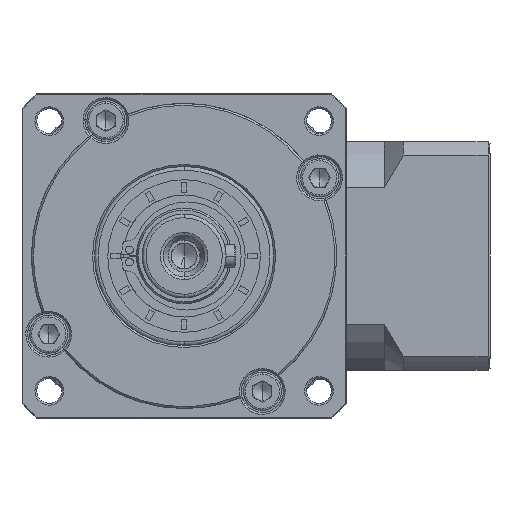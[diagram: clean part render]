
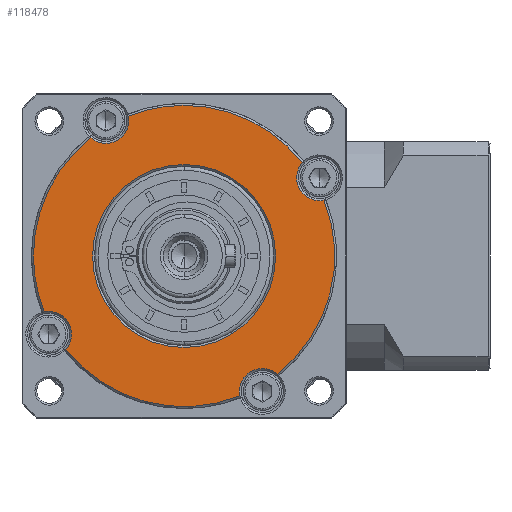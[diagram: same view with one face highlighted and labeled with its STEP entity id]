
A CAD part, left-side view. The second image highlights one B-rep face of the part: STEP entity #118478.
In plain terms, the highlighted planar face has unit normal (-1, 0, 0).
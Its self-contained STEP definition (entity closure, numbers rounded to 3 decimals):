
#2722 = CARTESIAN_POINT ( 'NONE',  ( -85.36, -20.174, -159.585 ) ) ;
#3901 = FACE_OUTER_BOUND ( 'NONE', #104387, .T. ) ;
#4414 = CARTESIAN_POINT ( 'NONE',  ( -85.36, -26.055, -158.397 ) ) ;
#5162 = AXIS2_PLACEMENT_3D ( 'NONE', #85774, #5679, #99232 ) ;
#5334 = ORIENTED_EDGE ( 'NONE', *, *, #7793, .T. ) ;
#5679 = DIRECTION ( 'NONE',  ( 1., 0., 0. ) ) ;
#7793 = EDGE_CURVE ( 'NONE', #133813, #51661, #109032, .T. ) ;
#9334 = ORIENTED_EDGE ( 'NONE', *, *, #18270, .T. ) ;
#12221 = CIRCLE ( 'NONE', #82323, 6. ) ;
#12641 = EDGE_CURVE ( 'NONE', #37581, #121633, #16694, .T. ) ;
#13080 = DIRECTION ( 'NONE',  ( 1., 0., 0. ) ) ;
#13602 = DIRECTION ( 'NONE',  ( 1., 0., 0. ) ) ;
#14195 = CIRCLE ( 'NONE', #149418, 6. ) ;
#14371 = CIRCLE ( 'NONE', #94584, 6. ) ;
#16036 = ORIENTED_EDGE ( 'NONE', *, *, #67349, .T. ) ;
#16694 = CIRCLE ( 'NONE', #166743, 39.5 ) ;
#17836 = DIRECTION ( 'NONE',  ( 0., 0., -1. ) ) ;
#18270 = EDGE_CURVE ( 'NONE', #57622, #36942, #127177, .T. ) ;
#18936 = AXIS2_PLACEMENT_3D ( 'NONE', #148014, #67984, #161398 ) ;
#19162 = AXIS2_PLACEMENT_3D ( 'NONE', #47540, #140963, #61007 ) ;
#22114 = AXIS2_PLACEMENT_3D ( 'NONE', #128308, #48320, #141744 ) ;
#23144 = EDGE_LOOP ( 'NONE', ( #43034, #9334 ) ) ;
#27774 = ORIENTED_EDGE ( 'NONE', *, *, #109267, .T. ) ;
#28696 = CARTESIAN_POINT ( 'NONE',  ( -85.36, -30.024, -153.897 ) ) ;
#31375 = DIRECTION ( 'NONE',  ( 1., 0., 0. ) ) ;
#32971 = DIRECTION ( 'NONE',  ( 1., 0., 0. ) ) ;
#35979 = EDGE_CURVE ( 'NONE', #133813, #107613, #111097, .T. ) ;
#36942 = VERTEX_POINT ( 'NONE', #59736 ) ;
#37581 = VERTEX_POINT ( 'NONE', #128333 ) ;
#39663 = ORIENTED_EDGE ( 'NONE', *, *, #42880, .T. ) ;
#42880 = EDGE_CURVE ( 'NONE', #51887, #121286, #12221, .T. ) ;
#43034 = ORIENTED_EDGE ( 'NONE', *, *, #150178, .T. ) ;
#47540 = CARTESIAN_POINT ( 'NONE',  ( -85.36, -41.062, -102.39 ) ) ;
#48320 = DIRECTION ( 'NONE',  ( -1., 0., 0. ) ) ;
#49960 = CARTESIAN_POINT ( 'NONE',  ( -85.36, -36.563, -98.42 ) ) ;
#50182 = CARTESIAN_POINT ( 'NONE',  ( -85.36, -41.062, -108.39 ) ) ;
#51409 = AXIS2_PLACEMENT_3D ( 'NONE', #70811, #164286, #84228 ) ;
#51661 = VERTEX_POINT ( 'NONE', #28696 ) ;
#51887 = VERTEX_POINT ( 'NONE', #50182 ) ;
#53014 = DIRECTION ( 'NONE',  ( 1., 0., 0. ) ) ;
#56367 = CARTESIAN_POINT ( 'NONE',  ( -85.36, 14.945, -93.383 ) ) ;
#57622 = VERTEX_POINT ( 'NONE', #125916 ) ;
#57892 = EDGE_CURVE ( 'NONE', #121633, #122008, #163800, .T. ) ;
#58089 = CARTESIAN_POINT ( 'NONE',  ( -85.36, 33.945, -122.89 ) ) ;
#59736 = CARTESIAN_POINT ( 'NONE',  ( -85.36, -29.555, -122.89 ) ) ;
#59908 = EDGE_CURVE ( 'NONE', #79731, #94522, #124884, .T. ) ;
#60091 = DIRECTION ( 'NONE',  ( 1., 0., 0. ) ) ;
#60703 = ORIENTED_EDGE ( 'NONE', *, *, #75195, .T. ) ;
#61007 = DIRECTION ( 'NONE',  ( 0., 0., -1. ) ) ;
#67349 = EDGE_CURVE ( 'NONE', #89008, #51887, #111625, .T. ) ;
#67366 = CARTESIAN_POINT ( 'NONE',  ( -85.36, -5.555, -122.89 ) ) ;
#67984 = DIRECTION ( 'NONE',  ( 1., 0., 0. ) ) ;
#69646 = ORIENTED_EDGE ( 'NONE', *, *, #35979, .F. ) ;
#70811 = CARTESIAN_POINT ( 'NONE',  ( -85.36, -5.555, -122.89 ) ) ;
#71907 = CARTESIAN_POINT ( 'NONE',  ( -85.36, 14.945, -87.383 ) ) ;
#74470 = ORIENTED_EDGE ( 'NONE', *, *, #59908, .F. ) ;
#75083 = FACE_BOUND ( 'NONE', #23144, .T. ) ;
#75195 = EDGE_CURVE ( 'NONE', #147220, #122008, #143999, .T. ) ;
#77274 = CIRCLE ( 'NONE', #171580, 39.5 ) ;
#79191 = DIRECTION ( 'NONE',  ( 1., 0., 0. ) ) ;
#79731 = VERTEX_POINT ( 'NONE', #90336 ) ;
#80812 = DIRECTION ( 'NONE',  ( 0., 0., 1. ) ) ;
#82304 = CARTESIAN_POINT ( 'NONE',  ( -85.36, -42.25, -108.271 ) ) ;
#82323 = AXIS2_PLACEMENT_3D ( 'NONE', #159190, #79191, #172622 ) ;
#84228 = DIRECTION ( 'NONE',  ( 0., 0., 1. ) ) ;
#85301 = DIRECTION ( 'NONE',  ( 0., 0., -1. ) ) ;
#85774 = CARTESIAN_POINT ( 'NONE',  ( -85.36, -5.555, -122.89 ) ) ;
#87871 = CARTESIAN_POINT ( 'NONE',  ( -85.36, 25.453, -147.359 ) ) ;
#88630 = AXIS2_PLACEMENT_3D ( 'NONE', #67366, #160790, #80812 ) ;
#88710 = AXIS2_PLACEMENT_3D ( 'NONE', #4414, #97961, #17836 ) ;
#89008 = VERTEX_POINT ( 'NONE', #82304 ) ;
#90336 = CARTESIAN_POINT ( 'NONE',  ( -85.36, 9.064, -86.194 ) ) ;
#93212 = CARTESIAN_POINT ( 'NONE',  ( -85.36, -5.555, -122.89 ) ) ;
#93721 = CARTESIAN_POINT ( 'NONE',  ( -85.36, -5.555, -122.89 ) ) ;
#94522 = VERTEX_POINT ( 'NONE', #131404 ) ;
#94584 = AXIS2_PLACEMENT_3D ( 'NONE', #113000, #32971, #126404 ) ;
#97961 = DIRECTION ( 'NONE',  ( 1., 0., 0. ) ) ;
#99232 = DIRECTION ( 'NONE',  ( 0., -1., 0. ) ) ;
#101341 = ORIENTED_EDGE ( 'NONE', *, *, #171326, .F. ) ;
#103622 = AXIS2_PLACEMENT_3D ( 'NONE', #93212, #13080, #106575 ) ;
#104387 = EDGE_LOOP ( 'NONE', ( #74470, #27774, #60703, #133355, #132283, #150739, #69646, #5334, #161749, #16036, #39663, #101341 ) ) ;
#106356 = CARTESIAN_POINT ( 'NONE',  ( -85.36, 18.915, -91.882 ) ) ;
#106575 = DIRECTION ( 'NONE',  ( 0., 1., 0. ) ) ;
#107100 = DIRECTION ( 'NONE',  ( 0., 0., 1. ) ) ;
#107613 = VERTEX_POINT ( 'NONE', #87871 ) ;
#109032 = CIRCLE ( 'NONE', #88710, 6. ) ;
#109267 = EDGE_CURVE ( 'NONE', #79731, #147220, #14195, .T. ) ;
#111097 = CIRCLE ( 'NONE', #115670, 39.5 ) ;
#111427 = CARTESIAN_POINT ( 'NONE',  ( -85.36, -5.555, -122.89 ) ) ;
#111625 = CIRCLE ( 'NONE', #19162, 6. ) ;
#113000 = CARTESIAN_POINT ( 'NONE',  ( -85.36, 29.952, -143.39 ) ) ;
#114303 = PLANE ( 'NONE',  #22114 ) ;
#115670 = AXIS2_PLACEMENT_3D ( 'NONE', #132989, #53014, #146472 ) ;
#118478 = ADVANCED_FACE ( 'NONE', ( #3901, #75083 ), #114303, .T. ) ;
#121286 = VERTEX_POINT ( 'NONE', #49960 ) ;
#121633 = VERTEX_POINT ( 'NONE', #58089 ) ;
#122008 = VERTEX_POINT ( 'NONE', #106356 ) ;
#124807 = DIRECTION ( 'NONE',  ( 0., 1., 0. ) ) ;
#124884 = CIRCLE ( 'NONE', #51409, 39.5 ) ;
#125916 = CARTESIAN_POINT ( 'NONE',  ( -85.36, 18.445, -122.89 ) ) ;
#126404 = DIRECTION ( 'NONE',  ( 0., 0., -1. ) ) ;
#127177 = CIRCLE ( 'NONE', #18936, 24. ) ;
#128308 = CARTESIAN_POINT ( 'NONE',  ( -85.36, -5.555, -122.89 ) ) ;
#128333 = CARTESIAN_POINT ( 'NONE',  ( -85.36, 31.14, -137.508 ) ) ;
#128782 = EDGE_CURVE ( 'NONE', #37581, #107613, #14371, .T. ) ;
#131404 = CARTESIAN_POINT ( 'NONE',  ( -85.36, -5.555, -83.39 ) ) ;
#132283 = ORIENTED_EDGE ( 'NONE', *, *, #12641, .F. ) ;
#132989 = CARTESIAN_POINT ( 'NONE',  ( -85.36, -5.555, -122.89 ) ) ;
#133355 = ORIENTED_EDGE ( 'NONE', *, *, #57892, .F. ) ;
#133813 = VERTEX_POINT ( 'NONE', #2722 ) ;
#140045 = CARTESIAN_POINT ( 'NONE',  ( -85.36, 14.945, -87.383 ) ) ;
#140963 = DIRECTION ( 'NONE',  ( 1., 0., 0. ) ) ;
#141744 = DIRECTION ( 'NONE',  ( 0., 0., -1. ) ) ;
#143999 = CIRCLE ( 'NONE', #167033, 6. ) ;
#146472 = DIRECTION ( 'NONE',  ( 0., 0., 1. ) ) ;
#147220 = VERTEX_POINT ( 'NONE', #56367 ) ;
#148014 = CARTESIAN_POINT ( 'NONE',  ( -85.36, -5.555, -122.89 ) ) ;
#149418 = AXIS2_PLACEMENT_3D ( 'NONE', #71907, #165361, #85301 ) ;
#149641 = CIRCLE ( 'NONE', #5162, 24. ) ;
#150178 = EDGE_CURVE ( 'NONE', #36942, #57622, #149641, .T. ) ;
#150739 = ORIENTED_EDGE ( 'NONE', *, *, #128782, .T. ) ;
#153571 = DIRECTION ( 'NONE',  ( 0., 0., -1. ) ) ;
#159190 = CARTESIAN_POINT ( 'NONE',  ( -85.36, -41.062, -102.39 ) ) ;
#160790 = DIRECTION ( 'NONE',  ( 1., 0., 0. ) ) ;
#161398 = DIRECTION ( 'NONE',  ( 0., -1., 0. ) ) ;
#161508 = CIRCLE ( 'NONE', #88630, 39.5 ) ;
#161749 = ORIENTED_EDGE ( 'NONE', *, *, #165612, .F. ) ;
#163800 = CIRCLE ( 'NONE', #103622, 39.5 ) ;
#164286 = DIRECTION ( 'NONE',  ( 1., 0., 0. ) ) ;
#165361 = DIRECTION ( 'NONE',  ( 1., 0., 0. ) ) ;
#165612 = EDGE_CURVE ( 'NONE', #89008, #51661, #77274, .T. ) ;
#166743 = AXIS2_PLACEMENT_3D ( 'NONE', #111427, #31375, #124807 ) ;
#167033 = AXIS2_PLACEMENT_3D ( 'NONE', #140045, #60091, #153571 ) ;
#171326 = EDGE_CURVE ( 'NONE', #94522, #121286, #161508, .T. ) ;
#171580 = AXIS2_PLACEMENT_3D ( 'NONE', #93721, #13602, #107100 ) ;
#172622 = DIRECTION ( 'NONE',  ( 0., 0., -1. ) ) ;
